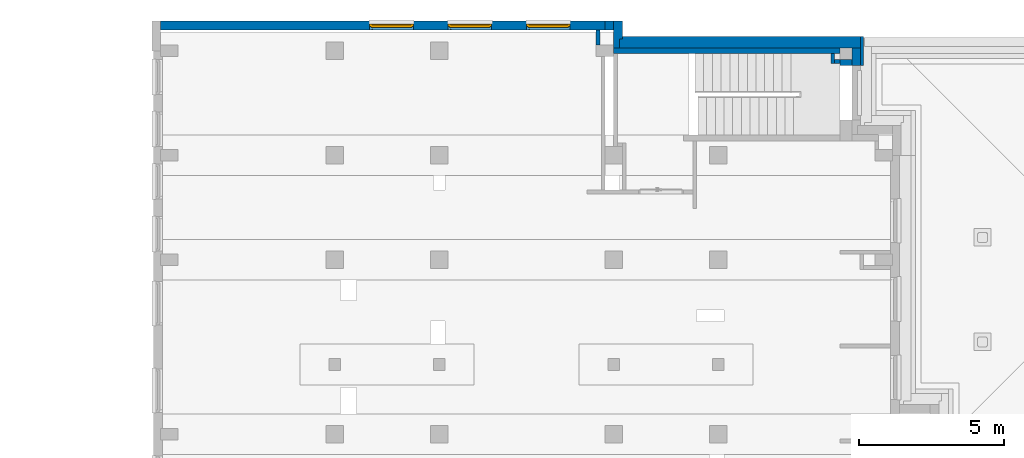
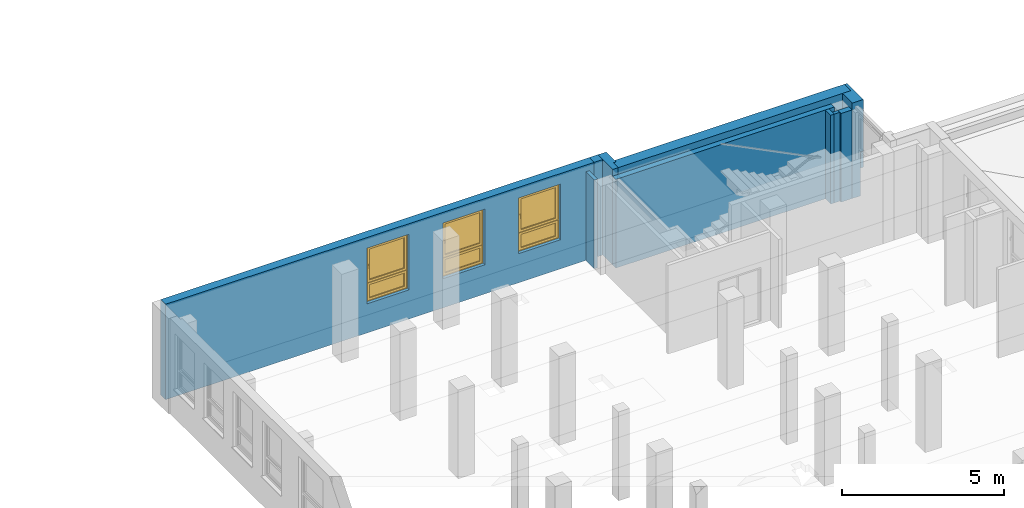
# One storey, part 30 of 50: 11 walls, 3 windows, 3 openings.
"""IFC4 building model written with IfcOpenShell, lengths in metres."""

from ifc_helpers import new_model, entity, si_unit, converted_unit, derived_unit, frame, frame_2d, origin, origin_with_axes, place, context, subcontext, project, spatial, polyline, rectangle, outline, extrude, clip, bounded_halfspace, closed_shell, open_shell, surface_model, source, transform, mapped, material, layer, layer_set, layer_usage, element, fill, save


model = new_model("IFC4")

# Units and contexts
model_context = context("Model", 3, precision=1e-05, world=origin())
body_context = subcontext(model_context, "Body", "Model", "MODEL_VIEW")
ifc_project = project(units=[si_unit("LENGTHUNIT", "METRE"), si_unit("AREAUNIT", "SQUARE_METRE"), si_unit("VOLUMEUNIT", "CUBIC_METRE"), si_unit("MASSUNIT", "GRAM", prefix="KILO"), converted_unit("PLANEANGLEUNIT", "DEGREE", entity("IfcPlaneAngleMeasure", 0.0174532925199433), si_unit("PLANEANGLEUNIT", "RADIAN"), dimensions=[0, 0, 0, 0, 0, 0, 0]), derived_unit("THERMALTRANSMITTANCEUNIT", [(si_unit("POWERUNIT", "WATT"), 1), (si_unit("THERMODYNAMICTEMPERATUREUNIT", "KELVIN"), -1), (si_unit("LENGTHUNIT", "METRE"), -2)]), derived_unit("VOLUMETRICFLOWRATEUNIT", [(si_unit("LENGTHUNIT", "METRE"), 3), (converted_unit("TIMEUNIT", "hour", entity("IfcTimeMeasure", 3600.0), si_unit("TIMEUNIT", "SECOND"), dimensions=[0, 0, 1, 0, 0, 0, 0]), -1), (si_unit("LENGTHUNIT", "METRE"), -1)])], contexts=[model_context])

# Site, building, storey
site_placement = place(None, origin())
site = spatial("IfcSite", under=ifc_project, at=site_placement, Name="3. ASŘ", CompositionType="ELEMENT")
building_placement = place(site_placement, origin())
building = spatial("IfcBuilding", under=site, at=building_placement, Name="Pavilon C", CompositionType="ELEMENT")
storey_placement = place(building_placement, frame((0.0, 0.0, 3.6)))
storey = spatial("IfcBuildingStorey", under=building, at=storey_placement, Name="Půdorys 2.NP", CompositionType="ELEMENT", Elevation=3.6)

# Wall
ifc_material_1 = material(Name="ZELEZOBETONOVÁ KCE")
ifc_layer_1 = layer(ifc_material_1, 0.2)
ifc_layer_set_1 = layer_set([ifc_layer_1])
ifc_layer_usage_1 = layer_usage(ifc_layer_set_1, "AXIS2", "POSITIVE", -0.1)
wall_1_placement = place(storey_placement, frame((40.35, 32.3, -0.1)))
element("IfcWall", 1, at=wall_1_placement, inside=storey, material=ifc_layer_usage_1, Name="ZELEZOBETONOVÁ KCE", context=body_context, shape_type="SweptSolid", body=[
    extrude(rectangle(XDim=7.79999999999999, YDim=0.2, at=frame_2d((3.89999999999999, 0.1), x_axis=(1.0, 0.0))), origin_with_axes(), (0.0, 0.0, 1.0), 3.35),
])

# Wall, openings, windows
ifc_material_2 = material(Name="ZELEZOBETONOVÁ KCE")
ifc_layer_2 = layer(ifc_material_2, 0.3)
ifc_layer_set_2 = layer_set([ifc_layer_2])
ifc_layer_usage_2 = layer_usage(ifc_layer_set_2, "AXIS2", "POSITIVE", 0.0)
wall_2_placement = place(storey_placement, frame((40.05, 33.42, -0.1), z_axis=(0.0, 0.0, 1.0), x_axis=(-1.0, 0.0, 0.0)))
wall_2 = element("IfcWall", 2, at=wall_2_placement, inside=storey, material=ifc_layer_usage_2, Name="ZELEZOBETONOVÁ KCE", context=body_context, shape_type="SweptSolid", body=[
    extrude(rectangle(XDim=15.3, YDim=0.3, at=frame_2d((7.65, 0.15), x_axis=(1.0, 0.0))), origin_with_axes(), (0.0, 0.0, 1.0), 3.6),
])
opening_1_placement = place(wall_2_placement, frame((6.6, 0.0, 1.1), z_axis=(0.0, 1.0, 0.0), x_axis=(0.0, 0.0, 1.0)))
opening_1 = element("IfcOpeningElement", 3, at=opening_1_placement, cuts=wall_2, Name="Okenní otvor", ObjectType="Opening", context=body_context, shape_type="SweptSolid", body=[
    extrude(outline(polyline([(0.0, 1.5), (2.1, 1.5), (2.1, 0.0), (0.0, 0.0), (0.0, 1.5)])), origin_with_axes(), (0.0, 0.0, 1.0), 0.3),
])
opening_2_placement = place(wall_2_placement, frame((3.9, 0.0, 1.1), z_axis=(0.0, 1.0, 0.0), x_axis=(0.0, 0.0, 1.0)))
opening_2 = element("IfcOpeningElement", 4, at=opening_2_placement, cuts=wall_2, Name="Okenní otvor", ObjectType="Opening", context=body_context, shape_type="SweptSolid", body=[
    extrude(outline(polyline([(0.0, 1.5), (2.1, 1.5), (2.1, 0.0), (0.0, 0.0), (0.0, 1.5)])), origin_with_axes(), (0.0, 0.0, 1.0), 0.3),
])
opening_3_placement = place(wall_2_placement, frame((1.2, 0.0, 1.1), z_axis=(0.0, 1.0, 0.0), x_axis=(0.0, 0.0, 1.0)))
opening_3 = element("IfcOpeningElement", 5, at=opening_3_placement, cuts=wall_2, Name="Okenní otvor", ObjectType="Opening", context=body_context, shape_type="SweptSolid", body=[
    extrude(outline(polyline([(0.0, 1.5), (2.1, 1.5), (2.1, 0.0), (0.0, 0.0), (0.0, 1.5)])), origin_with_axes(), (0.0, 0.0, 1.0), 0.3),
])
shared_shape = source(origin_with_axes(), body_context, "Body", "SurfaceModel", [
    surface_model("IfcShellBasedSurfaceModel", [(0.0, 0.182, 2.1), (0.0, 0.182, -5.63337527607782e-18), (0.08, 0.182, -5.63337527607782e-18), (0.08, 0.182, 2.1), (0.0, 0.0899999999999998, 5.63337527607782e-18), (0.0, 0.0900000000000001, 2.1), (0.08, 0.0900000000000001, 2.1), (0.08, 0.0899999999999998, 5.63337527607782e-18)], [closed_shell([[[0, 1, 2, 3]], [[4, 5, 6, 7]], [[1, 0, 5, 4]], [[2, 1, 4, 7]], [[3, 2, 7, 6]], [[0, 3, 6, 5]]], orient=[[False], [False], [False], [False], [False], [False]])]),
    surface_model("IfcShellBasedSurfaceModel", [(1.42, 0.182, 2.1), (1.42, 0.182, -5.63337527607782e-18), (1.5, 0.182, -5.63337527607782e-18), (1.5, 0.182, 2.1), (1.42, 0.0899999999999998, 5.63337527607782e-18), (1.42, 0.0900000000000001, 2.1), (1.5, 0.0900000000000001, 2.1), (1.5, 0.0899999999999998, 5.63337527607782e-18)], [closed_shell([[[0, 1, 2, 3]], [[4, 5, 6, 7]], [[1, 0, 5, 4]], [[2, 1, 4, 7]], [[3, 2, 7, 6]], [[0, 3, 6, 5]]], orient=[[False], [False], [False], [False], [False], [False]])]),
    surface_model("IfcShellBasedSurfaceModel", [(0.08, 0.182, 0.08), (0.08, 0.182, -5.63337527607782e-18), (1.42, 0.182, -5.63337527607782e-18), (1.42, 0.182, 0.08), (0.08, 0.0899999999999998, 5.63337527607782e-18), (0.08, 0.0899999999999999, 0.08), (1.42, 0.0899999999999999, 0.08), (1.42, 0.0899999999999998, 5.63337527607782e-18)], [closed_shell([[[0, 1, 2, 3]], [[4, 5, 6, 7]], [[1, 0, 5, 4]], [[2, 1, 4, 7]], [[3, 2, 7, 6]], [[0, 3, 6, 5]]], orient=[[False], [False], [False], [False], [False], [False]])]),
    surface_model("IfcShellBasedSurfaceModel", [(0.08, 0.182, 2.1), (0.08, 0.182, 2.02), (1.42, 0.182, 2.02), (1.42, 0.182, 2.1), (0.08, 0.0900000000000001, 2.02), (0.08, 0.0900000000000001, 2.1), (1.42, 0.0900000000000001, 2.1), (1.42, 0.0900000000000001, 2.02)], [closed_shell([[[0, 1, 2, 3]], [[4, 5, 6, 7]], [[1, 0, 5, 4]], [[2, 1, 4, 7]], [[3, 2, 7, 6]], [[0, 3, 6, 5]]], orient=[[False], [False], [False], [False], [False], [False]])]),
    surface_model("IfcShellBasedSurfaceModel", [(0.08, 0.182, 0.76), (0.08, 0.182, 0.68), (1.42, 0.182, 0.68), (1.42, 0.182, 0.76), (0.08, 0.0899999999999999, 0.68), (0.08, 0.0899999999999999, 0.76), (1.42, 0.0899999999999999, 0.76), (1.42, 0.0899999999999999, 0.68)], [closed_shell([[[0, 1, 2, 3]], [[4, 5, 6, 7]], [[1, 0, 5, 4]], [[2, 1, 4, 7]], [[3, 2, 7, 6]], [[0, 3, 6, 5]]], orient=[[False], [False], [False], [False], [False], [False]])]),
    surface_model("IfcShellBasedSurfaceModel", [(0.05, 0.145, 0.71), (0.05, 0.145, 0.05), (0.13, 0.145, 0.05), (0.13, 0.145, 0.71), (0.05, 0.0599999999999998, 0.05), (0.05, 0.0599999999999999, 0.71), (0.13, 0.0599999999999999, 0.71), (0.13, 0.0599999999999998, 0.05)], [closed_shell([[[0, 1, 2, 3]], [[4, 5, 6, 7]], [[1, 0, 5, 4]], [[2, 1, 4, 7]], [[3, 2, 7, 6]], [[0, 3, 6, 5]]], orient=[[False], [False], [False], [False], [False], [False]])]),
    surface_model("IfcShellBasedSurfaceModel", [(1.37, 0.145, 0.71), (1.37, 0.145, 0.05), (1.45, 0.145, 0.05), (1.45, 0.145, 0.71), (1.37, 0.0599999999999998, 0.05), (1.37, 0.0599999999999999, 0.71), (1.45, 0.0599999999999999, 0.71), (1.45, 0.0599999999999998, 0.05)], [closed_shell([[[0, 1, 2, 3]], [[4, 5, 6, 7]], [[1, 0, 5, 4]], [[2, 1, 4, 7]], [[3, 2, 7, 6]], [[0, 3, 6, 5]]], orient=[[False], [False], [False], [False], [False], [False]])]),
    surface_model("IfcShellBasedSurfaceModel", [(0.13, 0.145, 0.13), (0.13, 0.145, 0.05), (1.37, 0.145, 0.05), (1.37, 0.145, 0.13), (0.13, 0.0599999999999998, 0.05), (0.13, 0.0599999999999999, 0.13), (1.37, 0.0599999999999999, 0.13), (1.37, 0.0599999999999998, 0.05)], [closed_shell([[[0, 1, 2, 3]], [[4, 5, 6, 7]], [[1, 0, 5, 4]], [[2, 1, 4, 7]], [[3, 2, 7, 6]], [[0, 3, 6, 5]]], orient=[[False], [False], [False], [False], [False], [False]])]),
    surface_model("IfcShellBasedSurfaceModel", [(0.13, 0.145, 0.71), (0.13, 0.145, 0.63), (1.37, 0.145, 0.63), (1.37, 0.145, 0.71), (0.13, 0.0599999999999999, 0.63), (0.13, 0.0599999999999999, 0.71), (1.37, 0.0599999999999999, 0.71), (1.37, 0.0599999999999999, 0.63)], [closed_shell([[[0, 1, 2, 3]], [[4, 5, 6, 7]], [[1, 0, 5, 4]], [[2, 1, 4, 7]], [[3, 2, 7, 6]], [[0, 3, 6, 5]]], orient=[[False], [False], [False], [False], [False], [False]])]),
    surface_model("IfcShellBasedSurfaceModel", [(0.05, 0.145, 2.05), (0.05, 0.145, 0.73), (0.13, 0.145, 0.73), (0.13, 0.145, 2.05), (0.05, 0.0599999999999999, 0.73), (0.05, 0.0600000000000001, 2.05), (0.13, 0.0600000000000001, 2.05), (0.13, 0.0599999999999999, 0.73)], [closed_shell([[[0, 1, 2, 3]], [[4, 5, 6, 7]], [[1, 0, 5, 4]], [[2, 1, 4, 7]], [[3, 2, 7, 6]], [[0, 3, 6, 5]]], orient=[[False], [False], [False], [False], [False], [False]])]),
    surface_model("IfcShellBasedSurfaceModel", [(1.37, 0.145, 2.05), (1.37, 0.145, 0.73), (1.45, 0.145, 0.73), (1.45, 0.145, 2.05), (1.37, 0.0599999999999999, 0.73), (1.37, 0.0600000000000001, 2.05), (1.45, 0.0600000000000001, 2.05), (1.45, 0.0599999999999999, 0.73)], [closed_shell([[[0, 1, 2, 3]], [[4, 5, 6, 7]], [[1, 0, 5, 4]], [[2, 1, 4, 7]], [[3, 2, 7, 6]], [[0, 3, 6, 5]]], orient=[[False], [False], [False], [False], [False], [False]])]),
    surface_model("IfcShellBasedSurfaceModel", [(0.13, 0.145, 0.81), (0.13, 0.145, 0.73), (1.37, 0.145, 0.73), (1.37, 0.145, 0.81), (0.13, 0.0599999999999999, 0.73), (0.13, 0.0599999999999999, 0.81), (1.37, 0.0599999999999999, 0.81), (1.37, 0.0599999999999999, 0.73)], [closed_shell([[[0, 1, 2, 3]], [[4, 5, 6, 7]], [[1, 0, 5, 4]], [[2, 1, 4, 7]], [[3, 2, 7, 6]], [[0, 3, 6, 5]]], orient=[[False], [False], [False], [False], [False], [False]])]),
    surface_model("IfcShellBasedSurfaceModel", [(0.13, 0.145, 2.05), (0.13, 0.145, 1.97), (1.37, 0.145, 1.97), (1.37, 0.145, 2.05), (0.13, 0.0600000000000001, 1.97), (0.13, 0.0600000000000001, 2.05), (1.37, 0.0600000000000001, 2.05), (1.37, 0.0600000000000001, 1.97)], [closed_shell([[[0, 1, 2, 3]], [[4, 5, 6, 7]], [[1, 0, 5, 4]], [[2, 1, 4, 7]], [[3, 2, 7, 6]], [[0, 3, 6, 5]]], orient=[[False], [False], [False], [False], [False], [False]])]),
    surface_model("IfcShellBasedSurfaceModel", [(0.0775, 0.06, 1.41), (0.0775, 0.06, 1.37), (0.1025, 0.06, 1.37), (0.1025, 0.06, 1.41), (0.0775, 0.05, 1.37), (0.0775, 0.05, 1.41), (0.1025, 0.05, 1.41), (0.1025, 0.05, 1.37)], [closed_shell([[[0, 1, 2, 3]], [[4, 5, 6, 7]], [[1, 0, 5, 4]], [[2, 1, 4, 7]], [[3, 2, 7, 6]], [[0, 3, 6, 5]]], orient=[[False], [False], [False], [False], [False], [False]])]),
    surface_model("IfcShellBasedSurfaceModel", [(0.1, 0.05, 1.39), (0.0986602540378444, 0.05, 1.395), (0.095, 0.05, 1.39866025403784), (0.09, 0.05, 1.4), (0.085, 0.05, 1.39866025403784), (0.0813397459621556, 0.05, 1.395), (0.08, 0.05, 1.39), (0.0813397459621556, 0.05, 1.385), (0.085, 0.05, 1.38133974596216), (0.09, 0.05, 1.38), (0.095, 0.05, 1.38133974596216), (0.0986602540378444, 0.05, 1.385), (0.1, 0.01, 1.39), (0.0986602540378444, 0.00500000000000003, 1.395), (0.095, 0.00133974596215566, 1.39866025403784), (0.09, 2.8421709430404e-17, 1.4), (0.085, 0.00133974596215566, 1.39866025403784), (0.0813397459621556, 0.00500000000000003, 1.395), (0.08, 0.01, 1.39), (0.0813397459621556, 0.015, 1.385), (0.085, 0.0186602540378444, 1.38133974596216), (0.09, 0.02, 1.38), (0.095, 0.0186602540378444, 1.38133974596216), (0.0986602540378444, 0.015, 1.385), (0.1, 0.01, 1.275), (0.0986602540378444, 0.005, 1.275), (0.095, 0.00133974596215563, 1.275), (0.09, 0.0, 1.275), (0.085, 0.00133974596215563, 1.275), (0.0813397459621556, 0.005, 1.275), (0.08, 0.01, 1.275), (0.0813397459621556, 0.015, 1.275), (0.085, 0.0186602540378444, 1.275), (0.09, 0.02, 1.275), (0.095, 0.0186602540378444, 1.275), (0.0986602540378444, 0.015, 1.275)], [open_shell([[[0, 1, 2, 3, 4, 5, 6, 7, 8, 9, 10, 11]], [[0, 12, 13, 1]], [[1, 13, 14, 2]], [[2, 14, 15, 3]], [[3, 15, 16, 4]], [[4, 16, 17, 5]], [[5, 17, 18, 6]], [[6, 18, 19, 7]], [[7, 19, 20, 8]], [[8, 20, 21, 9]], [[9, 21, 22, 10]], [[10, 22, 23, 11]], [[11, 23, 12, 0]], [[12, 24, 25, 13]], [[13, 25, 26, 14]], [[14, 26, 27, 15]], [[15, 27, 28, 16]], [[16, 28, 29, 17]], [[17, 29, 30, 18]], [[18, 30, 31, 19]], [[19, 31, 32, 20]], [[20, 32, 33, 21]], [[21, 33, 34, 22]], [[22, 34, 35, 23]], [[23, 35, 24, 12]]], orient=[[False], [False], [False], [False], [False], [False], [False], [False], [False], [False], [False], [False], [False], [False], [False], [False], [False], [False], [False], [False], [False], [False], [False], [False], [False]])]),
    surface_model("IfcShellBasedSurfaceModel", [(0.13, 0.1025, 0.13), (1.37, 0.1025, 0.13), (1.37, 0.1025, 0.63), (0.13, 0.1025, 0.63)], [open_shell([[[0, 1, 2, 3]]], orient=[[False]])]),
    surface_model("IfcShellBasedSurfaceModel", [(0.13, 0.1025, 0.81), (1.37, 0.1025, 0.81), (1.37, 0.1025, 1.97), (0.13, 0.1025, 1.97)], [open_shell([[[0, 1, 2, 3]]], orient=[[False]])]),
])
window_1_placement = place(opening_1_placement, frame((0.0, 1.5, 0.282), z_axis=(1.0, 0.0, 0.0), x_axis=(0.0, -0.999999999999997, 2.4492935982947e-16)))
window_1 = element("IfcWindow", 6, at=window_1_placement, inside=storey, Name="O06", OverallHeight=2.1, OverallWidth=1.5, PartitioningType="USERDEFINED", PredefinedType="WINDOW", context=body_context, shape_type="MappedRepresentation", body=[
    mapped(shared_shape, transform((0.0, 0.0, 0.0), x_axis=(1.0, 0.0, 0.0), y_axis=(0.0, 1.0, 0.0), z_axis=(0.0, 0.0, 1.0), scale=0.999999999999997)),
])
fill(opening_1, window_1)
window_2_placement = place(opening_2_placement, frame((0.0, 1.5, 0.282), z_axis=(1.0, 0.0, 0.0), x_axis=(0.0, -1.0, 2.44929359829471e-16)))
window_2 = element("IfcWindow", 7, at=window_2_placement, inside=storey, Name="O06", OverallHeight=2.1, OverallWidth=1.5, PartitioningType="USERDEFINED", PredefinedType="WINDOW", context=body_context, shape_type="MappedRepresentation", body=[
    mapped(shared_shape, transform((0.0, 0.0, 0.0), x_axis=(1.0, 0.0, 0.0), y_axis=(0.0, 1.0, 0.0), z_axis=(0.0, 0.0, 1.0), scale=1.0)),
])
fill(opening_2, window_2)
window_3_placement = place(opening_3_placement, frame((0.0, 1.5, 0.282), z_axis=(1.0, 0.0, 0.0), x_axis=(0.0, -1.0, 2.44929359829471e-16)))
window_3 = element("IfcWindow", 8, at=window_3_placement, inside=storey, Name="O06", OverallHeight=2.1, OverallWidth=1.5, PartitioningType="USERDEFINED", PredefinedType="WINDOW", context=body_context, shape_type="MappedRepresentation", body=[
    mapped(shared_shape, transform((0.0, 0.0, 0.0), x_axis=(1.0, 0.0, 0.0), y_axis=(0.0, 1.0, 0.0), z_axis=(0.0, 0.0, 1.0), scale=1.0)),
])
fill(opening_3, window_3)

# Walls
ifc_material_3 = material(Name="ZDIVO Z CDm")
ifc_layer_3 = layer(ifc_material_3, 0.2)
ifc_layer_set_3 = layer_set([ifc_layer_3])
ifc_layer_usage_3 = layer_usage(ifc_layer_set_3, "AXIS2", "POSITIVE", 0.0)
wall_3_placement = place(storey_placement, frame((48.15, 31.895, -0.1)))
element("IfcWall", 9, at=wall_3_placement, inside=storey, material=ifc_layer_usage_3, Name="ZDIVO Z CDm", context=body_context, shape_type="SweptSolid", body=[
    extrude(rectangle(XDim=0.4, YDim=0.2, at=frame_2d((0.2, 0.1), x_axis=(1.0, 0.0))), origin_with_axes(), (0.0, 0.0, 1.0), 3.35),
])
ifc_material_4 = material(Name="ZDIVO Z CDm")
ifc_layer_4 = layer(ifc_material_4, 0.125)
ifc_layer_set_4 = layer_set([ifc_layer_4])
ifc_layer_usage_4 = layer_usage(ifc_layer_set_4, "AXIS2", "POSITIVE", 0.0)
wall_4_placement = place(storey_placement, frame((47.95, 31.97, -0.1), z_axis=(0.0, 0.0, 1.0), x_axis=(0.0, 1.0, 0.0)))
element("IfcWall", 10, at=wall_4_placement, inside=storey, material=ifc_layer_usage_4, Name="ZDIVO Z CDm", context=body_context, shape_type="SweptSolid", body=[
    extrude(rectangle(XDim=0.330000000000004, YDim=0.125, at=frame_2d((0.165000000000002, 0.0625), x_axis=(1.0, 0.0))), origin_with_axes(), (0.0, 0.0, 1.0), 3.35),
])
ifc_material_5 = material(Name="ZDIVO Z CDm")
ifc_layer_5 = layer(ifc_material_5, 0.125)
ifc_layer_set_5 = layer_set([ifc_layer_5])
ifc_layer_usage_5 = layer_usage(ifc_layer_set_5, "AXIS2", "POSITIVE", 0.0)
wall_5_placement = place(storey_placement, frame((39.75, 33.12, -0.1), z_axis=(0.0, 0.0, 1.0), x_axis=(0.0, -1.0, 0.0)))
element("IfcWall", 11, at=wall_5_placement, inside=storey, material=ifc_layer_usage_5, Name="ZDIVO Z CDm", context=body_context, shape_type="SweptSolid", body=[
    extrude(rectangle(XDim=0.520000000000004, YDim=0.125, at=frame_2d((0.260000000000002, 0.0625), x_axis=(1.0, 0.0))), origin_with_axes(), (0.0, 0.0, 1.0), 3.35),
])
ifc_material_6 = material(Name="PLYNOSILIKÁT")
ifc_layer_6 = layer(ifc_material_6, 0.3)
ifc_layer_set_6 = layer_set([ifc_layer_6])
ifc_layer_usage_6 = layer_usage(ifc_layer_set_6, "AXIS2", "POSITIVE", 0.0)
wall_6_placement = place(storey_placement, frame((40.65, 32.8, -0.1), z_axis=(0.0, 0.0, 1.0), x_axis=(0.0, 1.0, 0.0)))
element("IfcWall", 12, at=wall_6_placement, inside=storey, material=ifc_layer_usage_6, Name="PLYNOSILIKÁT", context=body_context, shape_type="SweptSolid", body=[
    extrude(outline(polyline([(0.299999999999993, -0.3), (0.92, -0.3), (0.92, 0.0), (0.0, 0.0), (0.0, -0.2), (0.299999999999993, -0.2), (0.299999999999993, -0.3)])), frame((-0.299999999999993, 0.3, 0.0), z_axis=(0.0, 0.0, 1.0), x_axis=(1.0, 0.0, 0.0)), (0.0, 0.0, 1.0), 3.6),
])
ifc_material_7 = material(Name="PLYNOSILIKÁT")
ifc_layer_7 = layer(ifc_material_7, 0.3)
ifc_layer_set_7 = layer_set([ifc_layer_7])
ifc_layer_usage_7 = layer_usage(ifc_layer_set_7, "AXIS2", "POSITIVE", 0.0)
wall_7_placement = place(storey_placement, frame((40.35, 33.42, -0.1), z_axis=(0.0, 0.0, 1.0), x_axis=(-1.0, 0.0, 0.0)))
element("IfcWall", 13, at=wall_7_placement, inside=storey, material=ifc_layer_usage_7, Name="PLYNOSILIKÁT", context=body_context, shape_type="SweptSolid", body=[
    extrude(rectangle(XDim=0.3, YDim=0.3, at=frame_2d((0.15, 0.15), x_axis=(1.0, 0.0))), origin_with_axes(), (0.0, 0.0, 1.0), 3.6),
])
ifc_material_8 = material(Name="EPS")
ifc_layer_8 = layer(ifc_material_8, 0.1)
ifc_material_9 = material(Name="ZELEZOBETONOVÁ KCE")
ifc_layer_9 = layer(ifc_material_9, 0.299999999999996)
ifc_layer_set_8 = layer_set([ifc_layer_8, ifc_layer_9])
ifc_layer_usage_8 = layer_usage(ifc_layer_set_8, "AXIS2", "POSITIVE", -0.1)
wall_8_placement = place(storey_placement, frame((48.85, 32.9, -0.1), z_axis=(0.0, 0.0, 1.0), x_axis=(-1.0, 0.0, 0.0)))
element("IfcWall", 14, at=wall_8_placement, inside=storey, material=ifc_layer_usage_8, Name="ZELEZOBETONOVÁ KCE", context=body_context, shape_type="SweptSolid", body=[
    extrude(outline(polyline([(-8.3, -0.399999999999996), (-0.1, -0.399999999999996), (-0.1, -0.299999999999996), (0.0, -0.299999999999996), (0.0, 0.0), (-8.3, 0.0), (-8.3, -0.399999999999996)])), frame((8.3, 0.399999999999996, 0.0), z_axis=(0.0, 0.0, 1.0), x_axis=(1.0, 0.0, 0.0)), (0.0, 0.0, 1.0), 3.6),
])
ifc_material_10 = material(Name="EPS")
ifc_layer_10 = layer(ifc_material_10, 0.1)
ifc_material_11 = material(Name="ZDIVO Z CDm")
ifc_layer_11 = layer(ifc_material_11, 0.3)
ifc_layer_set_9 = layer_set([ifc_layer_10, ifc_layer_11])
ifc_layer_usage_9 = layer_usage(ifc_layer_set_9, "AXIS2", "POSITIVE", -0.1)
wall_9_placement = place(storey_placement, frame((48.95, 31.895, -0.1), z_axis=(0.0, 0.0, 1.0), x_axis=(0.0, 1.0, 0.0)))
element("IfcWall", 15, at=wall_9_placement, inside=storey, material=ifc_layer_usage_9, Name="ZDIVO Z CDm", context=body_context, shape_type="Clipping", body=[
    clip(extrude(outline(polyline([(0.0, -0.4), (1.00500000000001, -0.4), (1.00500000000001, -0.3), (0.605000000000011, -0.3), (0.605000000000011, 0.0), (0.0, 0.0), (0.0, -0.4)])), frame((0.0, 0.4, 0.0), z_axis=(0.0, 0.0, 1.0), x_axis=(1.0, 0.0, 0.0)), (0.0, 0.0, 1.0), 3.6), bounded_halfspace(frame((0.523000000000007, 0.06, 1.65), z_axis=(0.0, 0.0, 1.0), x_axis=(-1.0, 0.0, 0.0)), True, origin_with_axes(), polyline([(0.605000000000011, 0.1), (0.0, 0.1), (0.0, 0.0), (1.00500000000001, 0.0), (1.00500000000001, 0.1), (0.605000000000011, 0.1)]))),
])
ifc_material_12 = material(Name="ZDIVO Z CDm")
ifc_layer_12 = layer(ifc_material_12, 0.125)
ifc_layer_set_10 = layer_set([ifc_layer_12])
ifc_layer_usage_10 = layer_usage(ifc_layer_set_10, "AXIS2", "POSITIVE", 0.0)
wall_10_placement = place(storey_placement, frame((48.15, 32.095, -0.1), z_axis=(0.0, 0.0, 1.0), x_axis=(-1.0, 0.0, 0.0)))
element("IfcWall", 16, at=wall_10_placement, inside=storey, material=ifc_layer_usage_10, Name="ZDIVO Z CDm", context=body_context, shape_type="SweptSolid", body=[
    extrude(rectangle(XDim=0.2, YDim=0.125, at=frame_2d((0.1, 0.0625), x_axis=(1.0, 0.0))), origin_with_axes(), (0.0, 0.0, 1.0), 3.35),
])
ifc_material_13 = material(Name="EPS")
ifc_layer_13 = layer(ifc_material_13, 0.1)
ifc_layer_set_11 = layer_set([ifc_layer_13])
ifc_layer_usage_11 = layer_usage(ifc_layer_set_11, "AXIS2", "POSITIVE", 0.0)
wall_11_placement = place(storey_placement, frame((48.85, 32.9, 0.95), z_axis=(0.0, 0.0, 1.0), x_axis=(0.0, -1.0, 0.0)))
element("IfcWall", 17, at=wall_11_placement, inside=storey, material=ifc_layer_usage_11, Name="EPS", context=body_context, shape_type="SweptSolid", body=[
    extrude(rectangle(XDim=1.00500000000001, YDim=0.1, at=frame_2d((0.502500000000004, 0.05), x_axis=(1.0, 0.0))), origin_with_axes(), (0.0, 0.0, 1.0), 0.6),
])

save(model, "model.ifc")
